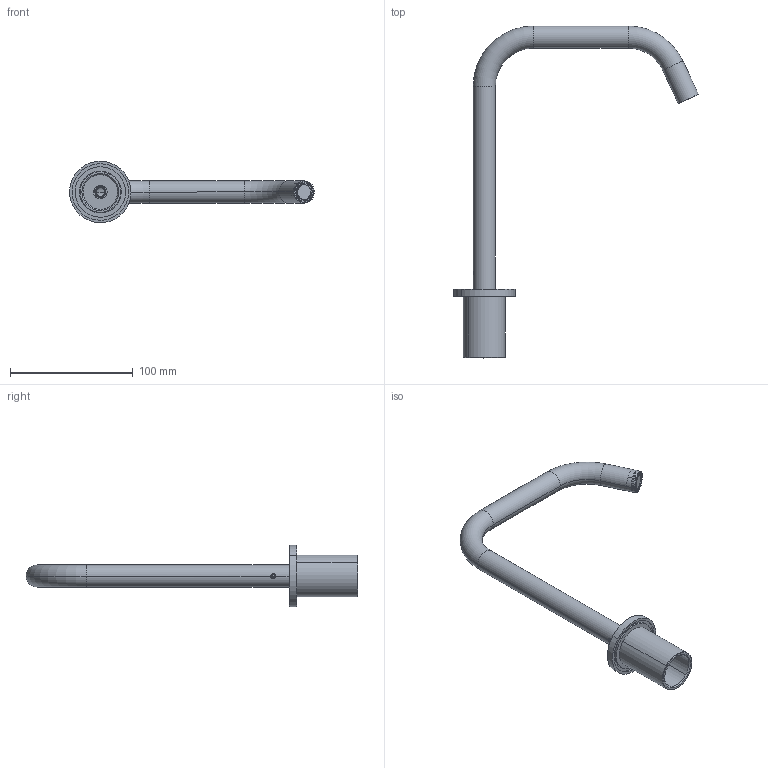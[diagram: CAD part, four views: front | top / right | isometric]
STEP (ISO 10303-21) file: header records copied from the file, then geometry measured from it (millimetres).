
FILE_DESCRIPTION (( 'STEP AP203' ), '1' );
FILE_NAME ('CTO2C.STEP', '2018-05-31T09:14:17', ( '' ), ( '' ), 'SwSTEP 2.0', 'SolidWorks 2014', '' );
FILE_SCHEMA (( 'CONFIG_CONTROL_DESIGN' ));
Length unit declared in the file: millimetre
Products named in the file (10): EU0648_1; OR992262ACS; CTO2C; EU0649_0; GRANCO M4x3 ACCIAIO; AERA161INC; EU1472_0; OR212ACS; EU1470_2; EU0029_1
Assembly tree (11 placements, depth 2):
  CTO2C
    EU0029_1
    OR212ACS
    EU1470_2
    EU1472_0
    EU0648_1
    EU0649_0  x2
    OR992262ACS  x2
    GRANCO M4x3 ACCIAIO
    AERA161INC
Bounding box: 199.08 x 269.97 x 49.98 mm (x, y, z)
Volume: 74583.5 mm3; surface area: 63746 mm2
Topology: 11 solids, 11 shells, 353 faces, 778 edges, 472 vertices
Faces by surface type: cylinder 118, plane 103, cone 88, torus 44
Entity records: 10062 total; most frequent: DIRECTION 1712, CARTESIAN_POINT 1665, ORIENTED_EDGE 1396, AXIS2_PLACEMENT_3D 701, EDGE_CURVE 698, VERTEX_POINT 424, CIRCLE 370, EDGE_LOOP 354
